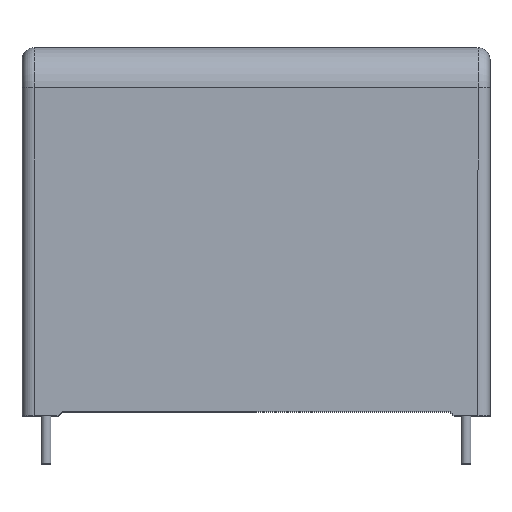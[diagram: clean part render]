
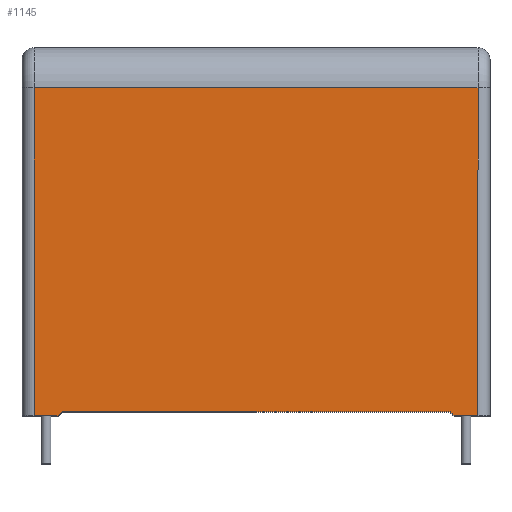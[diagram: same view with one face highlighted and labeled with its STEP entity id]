
A CAD part, top view. The second image highlights one B-rep face of the part: STEP entity #1145.
In plain terms, the highlighted planar face has unit normal (0, 0, 1).
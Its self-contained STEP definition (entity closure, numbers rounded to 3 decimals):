
#19 = CARTESIAN_POINT ( 'NONE',  ( -27.75, 41., 15.5 ) ) ;
#147 = DIRECTION ( 'NONE',  ( -1., 0., 0. ) ) ;
#151 = CARTESIAN_POINT ( 'NONE',  ( -24.25, 0.5, 15.5 ) ) ;
#157 = CARTESIAN_POINT ( 'NONE',  ( 24.25, 0.5, 15.5 ) ) ;
#164 = DIRECTION ( 'NONE',  ( -0.707, 0.707, 0. ) ) ;
#182 = AXIS2_PLACEMENT_3D ( 'NONE', #423, #335, #329 ) ;
#245 = ORIENTED_EDGE ( 'NONE', *, *, #1397, .F. ) ;
#309 = VECTOR ( 'NONE', #2282, 1000. ) ;
#329 = DIRECTION ( 'NONE',  ( -1., 0., 0. ) ) ;
#335 = DIRECTION ( 'NONE',  ( 0., 0., -1. ) ) ;
#347 = PLANE ( 'NONE',  #182 ) ;
#397 = LINE ( 'NONE', #3098, #3132 ) ;
#423 = CARTESIAN_POINT ( 'NONE',  ( -29.25, 46., 15.5 ) ) ;
#521 = LINE ( 'NONE', #3622, #3397 ) ;
#600 = ORIENTED_EDGE ( 'NONE', *, *, #1341, .T. ) ;
#727 = ORIENTED_EDGE ( 'NONE', *, *, #1208, .F. ) ;
#761 = LINE ( 'NONE', #151, #1828 ) ;
#829 = EDGE_CURVE ( 'NONE', #2364, #2247, #2513, .T. ) ;
#947 = ORIENTED_EDGE ( 'NONE', *, *, #829, .T. ) ;
#1007 = ORIENTED_EDGE ( 'NONE', *, *, #1192, .F. ) ;
#1125 = ORIENTED_EDGE ( 'NONE', *, *, #1241, .T. ) ;
#1145 = ADVANCED_FACE ( 'NONE', ( #4296 ), #347, .F. ) ;
#1192 = EDGE_CURVE ( 'NONE', #2088, #2169, #761, .T. ) ;
#1195 = DIRECTION ( 'NONE',  ( 1., 0., 0. ) ) ;
#1208 = EDGE_CURVE ( 'NONE', #2364, #2088, #2574, .T. ) ;
#1241 = EDGE_CURVE ( 'NONE', #2052, #1471, #1486, .T. ) ;
#1303 = CARTESIAN_POINT ( 'NONE',  ( -29.25, 0., 15.5 ) ) ;
#1304 = LINE ( 'NONE', #1914, #309 ) ;
#1341 = EDGE_CURVE ( 'NONE', #1471, #1390, #521, .T. ) ;
#1358 = VERTEX_POINT ( 'NONE', #3555 ) ;
#1367 = ORIENTED_EDGE ( 'NONE', *, *, #3348, .T. ) ;
#1373 = VECTOR ( 'NONE', #3148, 1000. ) ;
#1378 = EDGE_CURVE ( 'NONE', #1390, #1358, #3948, .T. ) ;
#1390 = VERTEX_POINT ( 'NONE', #3072 ) ;
#1397 = EDGE_CURVE ( 'NONE', #2169, #1358, #397, .T. ) ;
#1471 = VERTEX_POINT ( 'NONE', #19 ) ;
#1486 = LINE ( 'NONE', #4063, #1710 ) ;
#1543 = VECTOR ( 'NONE', #1195, 1000. ) ;
#1600 = VECTOR ( 'NONE', #164, 1000. ) ;
#1710 = VECTOR ( 'NONE', #3950, 1000. ) ;
#1748 = ORIENTED_EDGE ( 'NONE', *, *, #1378, .T. ) ;
#1828 = VECTOR ( 'NONE', #147, 1000. ) ;
#1853 = CARTESIAN_POINT ( 'NONE',  ( 24.75, 0., 15.5 ) ) ;
#1914 = CARTESIAN_POINT ( 'NONE',  ( 27.75, 46., 15.5 ) ) ;
#2052 = VERTEX_POINT ( 'NONE', #3358 ) ;
#2088 = VERTEX_POINT ( 'NONE', #2765 ) ;
#2169 = VERTEX_POINT ( 'NONE', #3416 ) ;
#2247 = VERTEX_POINT ( 'NONE', #3724 ) ;
#2282 = DIRECTION ( 'NONE',  ( 0., 1., 0. ) ) ;
#2364 = VERTEX_POINT ( 'NONE', #1853 ) ;
#2513 = LINE ( 'NONE', #1303, #1543 ) ;
#2574 = LINE ( 'NONE', #157, #1600 ) ;
#2742 = DIRECTION ( 'NONE',  ( -0.707, -0.707, 0. ) ) ;
#2765 = CARTESIAN_POINT ( 'NONE',  ( 24.25, 0.5, 15.5 ) ) ;
#3072 = CARTESIAN_POINT ( 'NONE',  ( -27.75, 0., 15.5 ) ) ;
#3098 = CARTESIAN_POINT ( 'NONE',  ( -24.75, 0., 15.5 ) ) ;
#3132 = VECTOR ( 'NONE', #2742, 1000. ) ;
#3148 = DIRECTION ( 'NONE',  ( 1., 0., 0. ) ) ;
#3348 = EDGE_CURVE ( 'NONE', #2247, #2052, #1304, .T. ) ;
#3358 = CARTESIAN_POINT ( 'NONE',  ( 27.75, 41., 15.5 ) ) ;
#3372 = EDGE_LOOP ( 'NONE', ( #1007, #727, #947, #1367, #1125, #600, #1748, #245 ) ) ;
#3376 = CARTESIAN_POINT ( 'NONE',  ( -29.25, 0., 15.5 ) ) ;
#3397 = VECTOR ( 'NONE', #3548, 1000. ) ;
#3416 = CARTESIAN_POINT ( 'NONE',  ( -24.25, 0.5, 15.5 ) ) ;
#3548 = DIRECTION ( 'NONE',  ( 0., -1., 0. ) ) ;
#3555 = CARTESIAN_POINT ( 'NONE',  ( -24.75, 0., 15.5 ) ) ;
#3622 = CARTESIAN_POINT ( 'NONE',  ( -27.75, 46., 15.5 ) ) ;
#3724 = CARTESIAN_POINT ( 'NONE',  ( 27.75, 0., 15.5 ) ) ;
#3948 = LINE ( 'NONE', #3376, #1373 ) ;
#3950 = DIRECTION ( 'NONE',  ( -1., 0., 0. ) ) ;
#4063 = CARTESIAN_POINT ( 'NONE',  ( -29.25, 41., 15.5 ) ) ;
#4296 = FACE_OUTER_BOUND ( 'NONE', #3372, .T. ) ;
